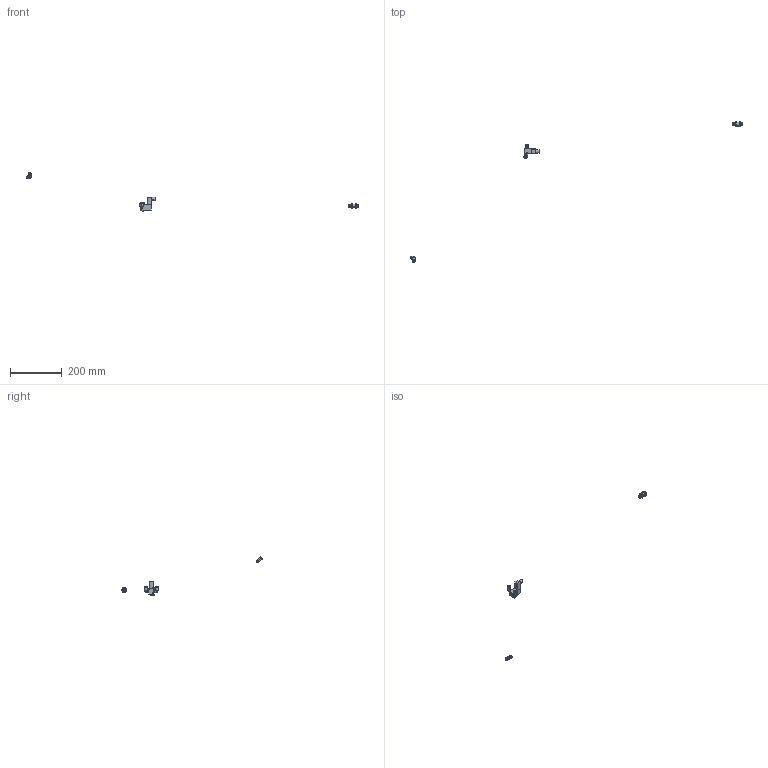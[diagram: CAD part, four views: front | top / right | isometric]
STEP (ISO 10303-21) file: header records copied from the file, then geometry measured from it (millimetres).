
FILE_DESCRIPTION(/* description */ (''),/* implementation_level */ '2;1');
FILE_NAME(/* name */ 'air-assist',/* time_stamp */ '2013-11-26T23:57:08+01:00',/* author */ (''),/* organization */ (''),/* preprocessor_version */ 'ST-DEVELOPER v14',/* originating_system */ '',/* authorisation */ '');
FILE_SCHEMA (('AUTOMOTIVE_DESIGN'));
Length unit declared in the file: millimetre
Products named in the file (4): Document; screw DIN912-like, M3x25; washer Schnorr-like, lock, M3; nut tslot, post, M3
Assembly tree (3 placements, depth 2):
  Document
    screw DIN912-like, M3x25
    washer Schnorr-like, lock, M3
    nut tslot, post, M3
Bounding box: 1282.42 x 543.61 x 149.49 mm (x, y, z)
Volume: 27726.2 mm3; surface area: 17220.2 mm2
Topology: 3 solids, 272 shells, 326 faces, 971 edges, 917 vertices
Faces by surface type: bspline 205, plane 121
Entity records: 24933 total; most frequent: CARTESIAN_POINT 12949, B_SPLINE_CURVE_WITH_KNOTS 1329, ORIENTED_EDGE 1090, PCURVE 1090, DEFINITIONAL_REPRESENTATION 1090, SURFACE_CURVE 963, EDGE_CURVE 963, VERTEX_POINT 917
